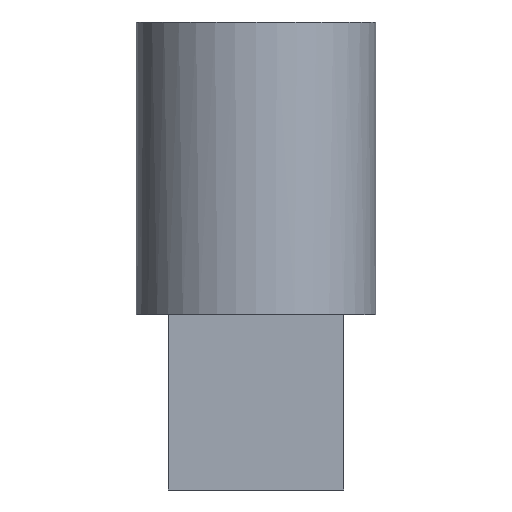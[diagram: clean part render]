
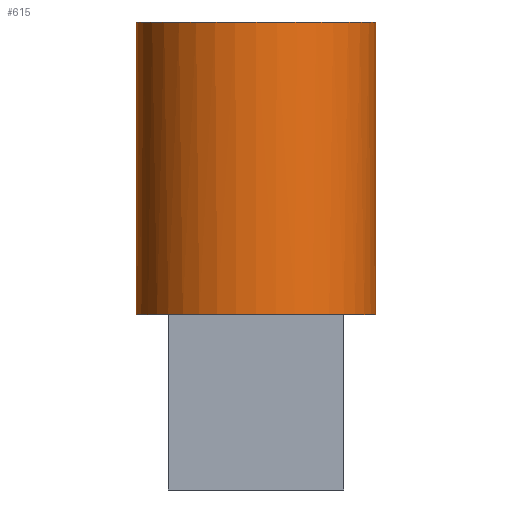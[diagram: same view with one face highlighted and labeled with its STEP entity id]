
A CAD part, front view. The second image highlights one B-rep face of the part: STEP entity #615.
In plain terms, the highlighted cylindrical face has radius 2.083 mm (diameter 4.166 mm), a partial arc.
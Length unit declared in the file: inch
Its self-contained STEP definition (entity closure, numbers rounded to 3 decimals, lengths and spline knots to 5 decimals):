
#58 = CIRCLE ( 'NONE', #992, 0.082 ) ;
#60 = VERTEX_POINT ( 'NONE', #2681 ) ;
#126 = LINE ( 'NONE', #3052, #2771 ) ;
#138 = ORIENTED_EDGE ( 'NONE', *, *, #547, .T. ) ;
#209 = ORIENTED_EDGE ( 'NONE', *, *, #719, .T. ) ;
#302 = VERTEX_POINT ( 'NONE', #2686 ) ;
#314 = CARTESIAN_POINT ( 'NONE',  ( 0., 0., 0.06 ) ) ;
#419 = DIRECTION ( 'NONE',  ( 0., 0., 1. ) ) ;
#446 = VERTEX_POINT ( 'NONE', #2618 ) ;
#547 = EDGE_CURVE ( 'NONE', #886, #2001, #2138, .T. ) ;
#599 = DIRECTION ( 'NONE',  ( -1., 0., 0. ) ) ;
#615 = ADVANCED_FACE ( 'NONE', ( #1266 ), #2920, .T. ) ;
#684 = AXIS2_PLACEMENT_3D ( 'NONE', #314, #2182, #599 ) ;
#691 = CARTESIAN_POINT ( 'NONE',  ( 0., 0., 0.06 ) ) ;
#719 = EDGE_CURVE ( 'NONE', #2001, #302, #58, .T. ) ;
#768 = CARTESIAN_POINT ( 'NONE',  ( -0.082, 0., 0.06 ) ) ;
#886 = VERTEX_POINT ( 'NONE', #768 ) ;
#992 = AXIS2_PLACEMENT_3D ( 'NONE', #691, #419, #1782 ) ;
#1198 = AXIS2_PLACEMENT_3D ( 'NONE', #2531, #2311, #3211 ) ;
#1266 = FACE_OUTER_BOUND ( 'NONE', #1360, .T. ) ;
#1360 = EDGE_LOOP ( 'NONE', ( #2227, #2842, #2572, #1977, #138, #209 ) ) ;
#1405 = DIRECTION ( 'NONE',  ( 0., 0., 1. ) ) ;
#1427 = CARTESIAN_POINT ( 'NONE',  ( 0., 0., 0.26 ) ) ;
#1432 = CIRCLE ( 'NONE', #684, 0.082 ) ;
#1608 = EDGE_CURVE ( 'NONE', #446, #1925, #126, .T. ) ;
#1623 = AXIS2_PLACEMENT_3D ( 'NONE', #1427, #3079, #1704 ) ;
#1651 = DIRECTION ( 'NONE',  ( -1., 0., 0. ) ) ;
#1652 = EDGE_CURVE ( 'NONE', #886, #60, #2691, .T. ) ;
#1653 = EDGE_CURVE ( 'NONE', #60, #1925, #2248, .T. ) ;
#1662 = EDGE_CURVE ( 'NONE', #302, #446, #1432, .T. ) ;
#1704 = DIRECTION ( 'NONE',  ( -1., 0., 0. ) ) ;
#1782 = DIRECTION ( 'NONE',  ( -1., 0., 0. ) ) ;
#1886 = CARTESIAN_POINT ( 'NONE',  ( 0., 0., 0.06 ) ) ;
#1925 = VERTEX_POINT ( 'NONE', #2910 ) ;
#1977 = ORIENTED_EDGE ( 'NONE', *, *, #1652, .F. ) ;
#2001 = VERTEX_POINT ( 'NONE', #3179 ) ;
#2099 = VECTOR ( 'NONE', #2401, 39.37008 ) ;
#2138 = CIRCLE ( 'NONE', #2753, 0.082 ) ;
#2182 = DIRECTION ( 'NONE',  ( 0., 0., 1. ) ) ;
#2227 = ORIENTED_EDGE ( 'NONE', *, *, #1662, .T. ) ;
#2248 = CIRCLE ( 'NONE', #1623, 0.082 ) ;
#2311 = DIRECTION ( 'NONE',  ( 0., 0., 1. ) ) ;
#2401 = DIRECTION ( 'NONE',  ( 0., 0., 1. ) ) ;
#2531 = CARTESIAN_POINT ( 'NONE',  ( 0., 0., 0.26 ) ) ;
#2572 = ORIENTED_EDGE ( 'NONE', *, *, #1653, .F. ) ;
#2618 = CARTESIAN_POINT ( 'NONE',  ( 0.082, 0., 0.06 ) ) ;
#2681 = CARTESIAN_POINT ( 'NONE',  ( -0.082, 0., 0.26 ) ) ;
#2686 = CARTESIAN_POINT ( 'NONE',  ( 0.06, -0.05589, 0.06 ) ) ;
#2691 = LINE ( 'NONE', #3062, #2099 ) ;
#2753 = AXIS2_PLACEMENT_3D ( 'NONE', #1886, #3273, #1651 ) ;
#2771 = VECTOR ( 'NONE', #1405, 39.37008 ) ;
#2842 = ORIENTED_EDGE ( 'NONE', *, *, #1608, .T. ) ;
#2910 = CARTESIAN_POINT ( 'NONE',  ( 0.082, 0., 0.26 ) ) ;
#2920 = CYLINDRICAL_SURFACE ( 'NONE', #1198, 0.082 ) ;
#3052 = CARTESIAN_POINT ( 'NONE',  ( 0.082, 0., 0.26 ) ) ;
#3062 = CARTESIAN_POINT ( 'NONE',  ( -0.082, 0., 0.26 ) ) ;
#3079 = DIRECTION ( 'NONE',  ( 0., 0., 1. ) ) ;
#3179 = CARTESIAN_POINT ( 'NONE',  ( -0.06, -0.05589, 0.06 ) ) ;
#3211 = DIRECTION ( 'NONE',  ( -1., 0., 0. ) ) ;
#3273 = DIRECTION ( 'NONE',  ( 0., 0., 1. ) ) ;
